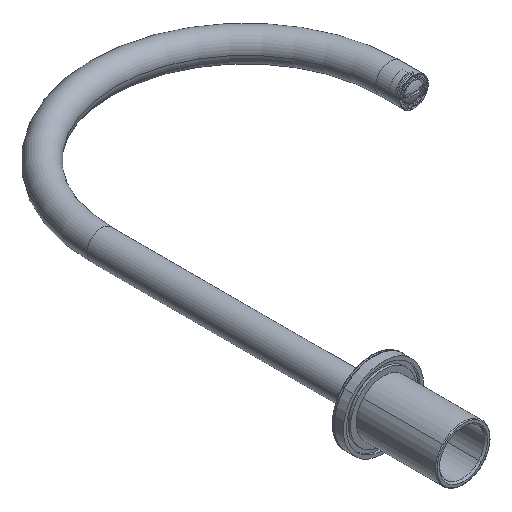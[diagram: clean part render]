
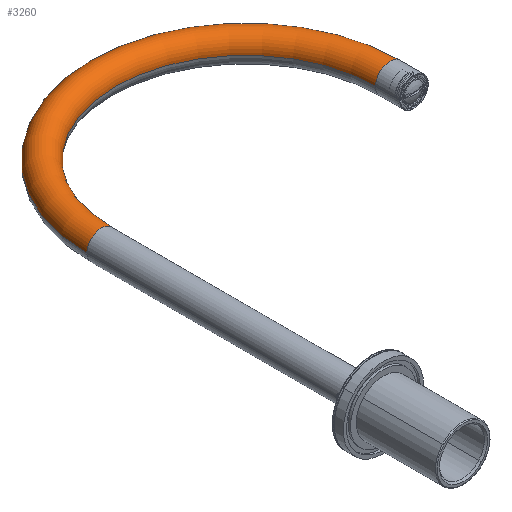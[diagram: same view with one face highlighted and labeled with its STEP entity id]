
A CAD part, isometric view. The second image highlights one B-rep face of the part: STEP entity #3260.
In plain terms, the highlighted toroidal (fillet/blend) face has major radius 90 mm and minor radius 9 mm.
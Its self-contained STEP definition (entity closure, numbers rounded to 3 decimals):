
#133 = CARTESIAN_POINT ( 'NONE',  ( 9., 0., 170. ) ) ;
#250 = DIRECTION ( 'NONE',  ( 0., 0., 1. ) ) ;
#1022 = DIRECTION ( 'NONE',  ( 0., 0., -1. ) ) ;
#1088 = AXIS2_PLACEMENT_3D ( 'NONE', #7959, #250, #3698 ) ;
#1094 = EDGE_CURVE ( 'NONE', #4527, #5401, #1673, .T. ) ;
#1643 = CARTESIAN_POINT ( 'NONE',  ( 171., 0., 170. ) ) ;
#1673 = CIRCLE ( 'NONE', #8493, 81. ) ;
#1763 = AXIS2_PLACEMENT_3D ( 'NONE', #2948, #8932, #2991 ) ;
#1818 = CARTESIAN_POINT ( 'NONE',  ( 180., 0., 170. ) ) ;
#2379 = DIRECTION ( 'NONE',  ( 0., -1., 0. ) ) ;
#2470 = DIRECTION ( 'NONE',  ( 0., -1., 0. ) ) ;
#2948 = CARTESIAN_POINT ( 'NONE',  ( 90., 0., 170. ) ) ;
#2963 = CIRCLE ( 'NONE', #1763, 99. ) ;
#2991 = DIRECTION ( 'NONE',  ( 0., 0., -1. ) ) ;
#3168 = CARTESIAN_POINT ( 'NONE',  ( 90., 0., 170. ) ) ;
#3260 = ADVANCED_FACE ( 'NONE', ( #5925 ), #7920, .T. ) ;
#3349 = CIRCLE ( 'NONE', #1088, 9. ) ;
#3698 = DIRECTION ( 'NONE',  ( 1., 0., 0. ) ) ;
#3754 = EDGE_CURVE ( 'NONE', #4966, #8328, #2963, .T. ) ;
#4460 = EDGE_LOOP ( 'NONE', ( #4980, #8623, #4774, #6151 ) ) ;
#4527 = VERTEX_POINT ( 'NONE', #1643 ) ;
#4772 = EDGE_CURVE ( 'NONE', #8328, #5401, #3349, .T. ) ;
#4774 = ORIENTED_EDGE ( 'NONE', *, *, #4772, .T. ) ;
#4966 = VERTEX_POINT ( 'NONE', #7193 ) ;
#4980 = ORIENTED_EDGE ( 'NONE', *, *, #10186, .F. ) ;
#5401 = VERTEX_POINT ( 'NONE', #133 ) ;
#5806 = AXIS2_PLACEMENT_3D ( 'NONE', #1818, #1022, #6148 ) ;
#5925 = FACE_OUTER_BOUND ( 'NONE', #4460, .T. ) ;
#6148 = DIRECTION ( 'NONE',  ( -1., 0., 0. ) ) ;
#6151 = ORIENTED_EDGE ( 'NONE', *, *, #1094, .F. ) ;
#7193 = CARTESIAN_POINT ( 'NONE',  ( 189., 0., 170. ) ) ;
#7349 = AXIS2_PLACEMENT_3D ( 'NONE', #8325, #2379, #10079 ) ;
#7920 = TOROIDAL_SURFACE ( 'NONE', #7349, 90., 9. ) ;
#7959 = CARTESIAN_POINT ( 'NONE',  ( 0., 0., 170. ) ) ;
#8050 = DIRECTION ( 'NONE',  ( 0., 0., -1. ) ) ;
#8325 = CARTESIAN_POINT ( 'NONE',  ( 90., 0., 170. ) ) ;
#8328 = VERTEX_POINT ( 'NONE', #8342 ) ;
#8342 = CARTESIAN_POINT ( 'NONE',  ( -9., 0., 170. ) ) ;
#8493 = AXIS2_PLACEMENT_3D ( 'NONE', #3168, #2470, #8050 ) ;
#8623 = ORIENTED_EDGE ( 'NONE', *, *, #3754, .T. ) ;
#8932 = DIRECTION ( 'NONE',  ( 0., -1., 0. ) ) ;
#9165 = CIRCLE ( 'NONE', #5806, 9. ) ;
#10079 = DIRECTION ( 'NONE',  ( 0., 0., -1. ) ) ;
#10186 = EDGE_CURVE ( 'NONE', #4966, #4527, #9165, .T. ) ;
